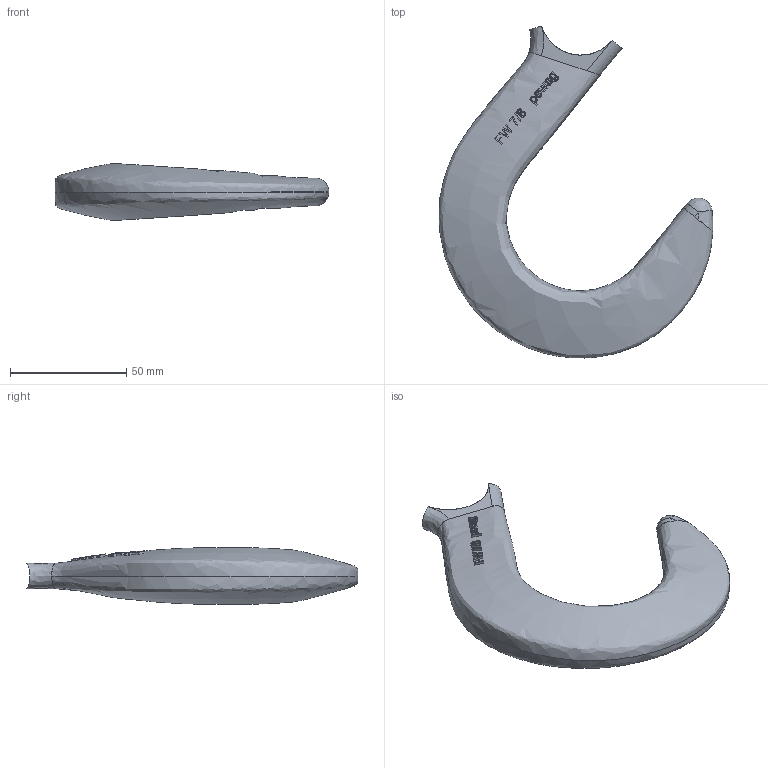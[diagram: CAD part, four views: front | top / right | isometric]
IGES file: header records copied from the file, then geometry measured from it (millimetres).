
Global section: file name: L:\users\SC\3D Kundenmodelle\UG Zg der Ableitung G100\FW Kundenmodell\FW 7_8 Kundenmodell\pewag_FW 7_8.igs; native system: NX V4.0; preprocessor: UGS NX IGES V4.0; date: 20100125.105556; units: millimetre
Bounding box: 118 x 143.02 x 24.57 mm (x, y, z)
Surface area: 19946.9 mm2 (no closed solid volume)
Topology: 0 solids, 0 shells, 177 faces, 1016 edges, 1013 vertices
Faces by surface type: bspline 167, offset 10
